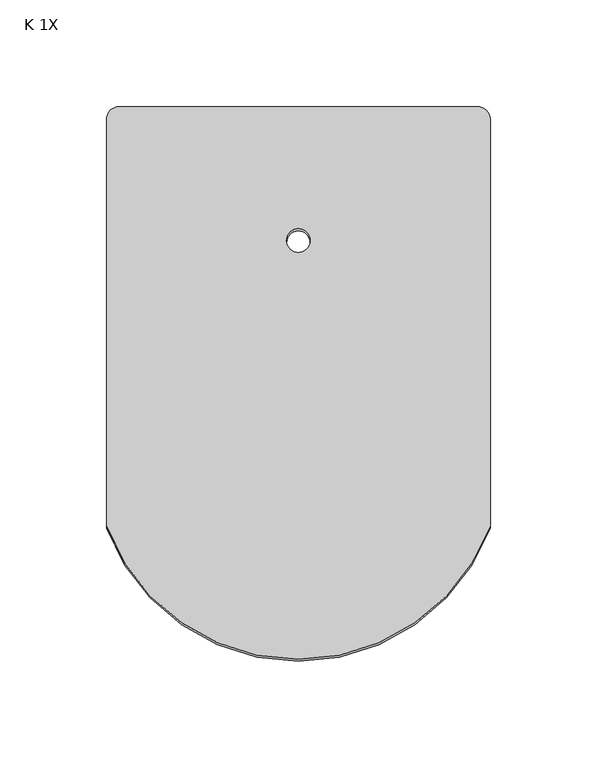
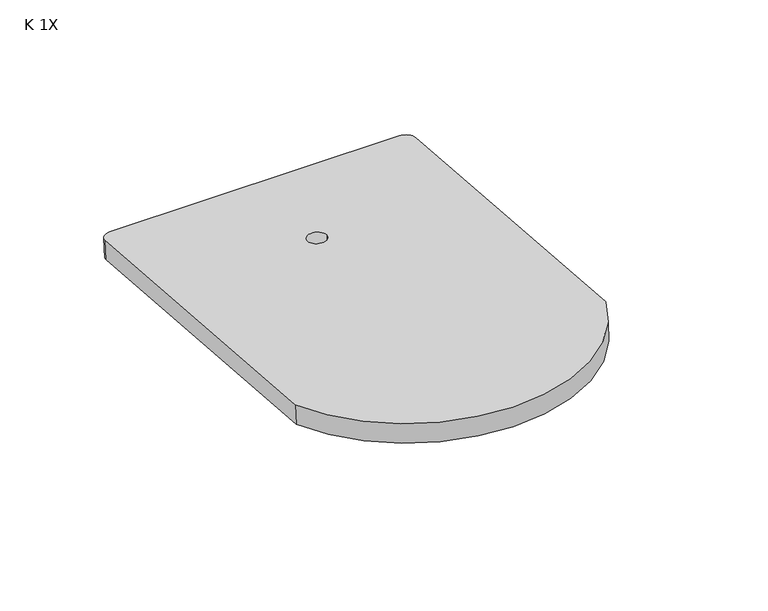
"""IFC4 building model written with IfcOpenShell, lengths in millimetres: proxy geometry, ML-PR-V-P-RED-N : K 1X."""

from ifc_helpers import new_model, si_unit, point, frame, frame_2d, origin, place, context, project, spatial, polyline, circle_curve, trimmed, segment, composite_curve, outline, extrude, source, transform, mapped, element, save


def k_1x_c00a25de(model_context):
    return source(origin(), model_context, "Body", "SweptSolid", [
        extrude(outline(composite_curve([segment(trimmed(circle_curve(frame_2d((311.4065862, -6.0)), 6.0), [point((311.4065862, 0.0))], [point((317.4065862, -6.0))], False, "CARTESIAN"), True, "CONTINUOUS"), segment(polyline([(317.4065862, -6.0), (317.4065862, -174.0)]), True, "CONTINUOUS"), segment(trimmed(circle_curve(frame_2d((311.4065862, -174.0)), 6.0), [point((317.4065862, -174.0))], [point((311.4065862, -180.0))], False, "CARTESIAN"), True, "CONTINUOUS"), segment(polyline([(311.4065862, -180.0), (120.0, -180.0)]), True, "CONTINUOUS"), segment(trimmed(circle_curve(frame_2d((153.4065862, -90.0)), 96.0), [point((120.0, -180.0))], [point((120.0, 0.0))], False, "CARTESIAN"), True, "CONTINUOUS"), segment(polyline([(120.0, 0.0), (311.4065862, 0.0)]), True, "CONTINUOUS")], self_intersect=False), holes=[composite_curve([segment(trimmed(circle_curve(frame_2d((254.4065862, -90.0)), 5.5), [point((254.4065862, -84.5))], [point((254.4065862, -95.5))], True, "CARTESIAN"), True, "CONTINUOUS"), segment(trimmed(circle_curve(frame_2d((254.4065862, -90.0)), 5.5), [point((254.4065862, -95.5))], [point((254.4065862, -84.5))], True, "CARTESIAN"), True, "CONTINUOUS")], self_intersect=False)]), frame((-90.0, -275.2871424, 21.569308), z_axis=(0.0, 0.07788766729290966, 0.9969621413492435), x_axis=(0.0, 0.9969621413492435, -0.07788766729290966)), (0.0, 0.0, 1.0), 11.5),
    ])


if __name__ == "__main__":
    model = new_model("IFC4")
    model_context = context("Model", 3, world=origin())
    ifc_project = project(units=[si_unit("LENGTHUNIT", "METRE", prefix="MILLI")], contexts=[model_context])
    site = spatial("IfcSite", under=ifc_project)
    building = spatial("IfcBuilding", under=site)
    placement = place(None, origin())
    k_1x_shape = k_1x_c00a25de(model_context)
    element("IfcBuildingElementProxy", 1, Name="ML-PR-V-P-RED-N : K 1X", ObjectType="ML-PR-V-P-RED-N : K 1X", at=placement, inside=building, context=model_context, shape_type="MappedRepresentation", body=[
        mapped(k_1x_shape, transform((0.0, 0.0, 0.0), x_axis=(1.0, 0.0, 0.0), y_axis=(0.0, 1.0, 0.0), z_axis=(0.0, 0.0, 1.0))),
    ])
    save(model, "model.ifc")
